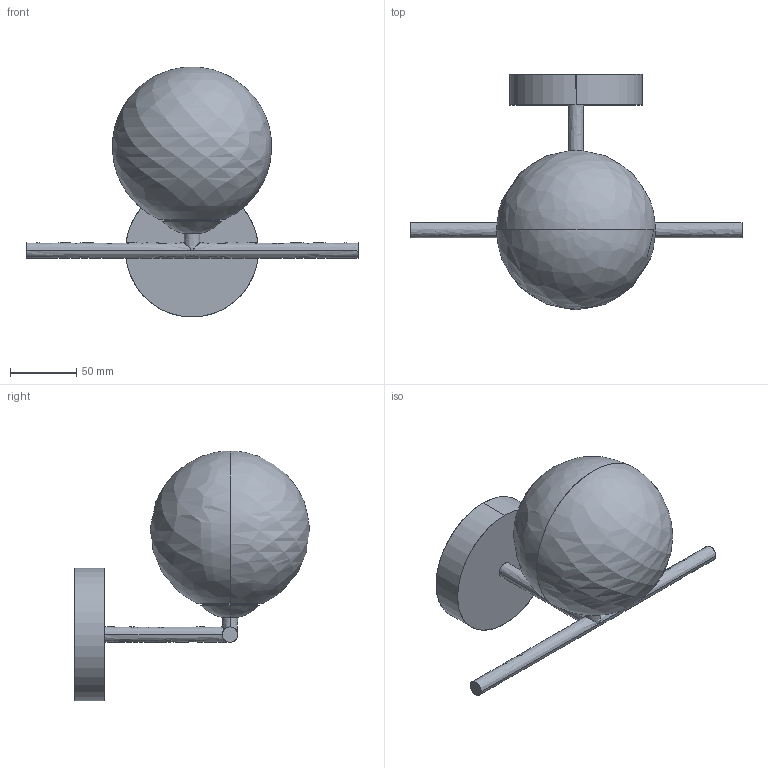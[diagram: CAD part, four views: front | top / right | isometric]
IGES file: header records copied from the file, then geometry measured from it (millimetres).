
Start section: SolidWorks IGES file using analytic representation for surfaces
Global section: file name: C:\Users\anna.bielnik\Desktop\modele 3D tymczasowe\aa_nowwe\ARALA 10527 (203) 2222 PM.IGS; native system: SolidWorks 2023; preprocessor: SolidWorks 2023; author: anna.bielnik; date: 230630.095301; units: millimetre
Bounding box: 250 x 177.25 x 188.25 mm (x, y, z)
Surface area: 89595.6 mm2 (no closed solid volume)
Topology: 0 solids, 0 shells, 36 faces, 642 edges, 630 vertices
Faces by surface type: bspline 34, revolution 2
